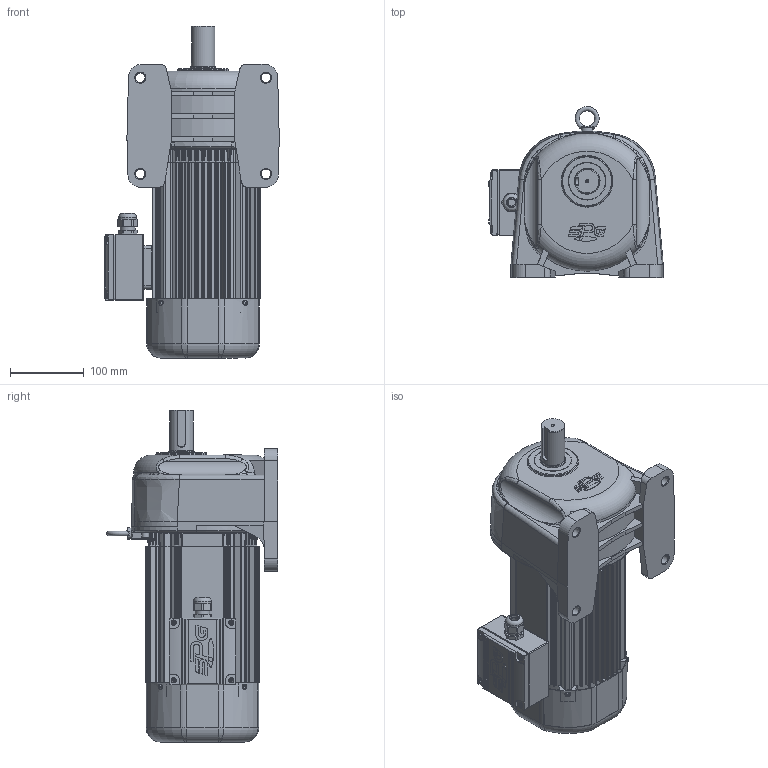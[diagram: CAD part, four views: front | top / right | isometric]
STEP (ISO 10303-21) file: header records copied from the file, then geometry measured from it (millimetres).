
FILE_DESCRIPTION(/* description */ (''),/* implementation_level */ '2;1');
FILE_NAME(/* name */ 'Z:\동력 3D 파일\PAL32-(30~100)-PC(D)075[ ]L.stp',/* time_stamp */ '2021-03-18T11:58:47+09:00',/* author */ ('jaebok'),/* organization */ (''),/* preprocessor_version */ 'ST-DEVELOPER v16.13',/* originating_system */ 'Autodesk Inventor 2018',/* authorisation */ '');
FILE_SCHEMA (('AUTOMOTIVE_DESIGN { 1 0 10303 214 3 1 1 }'));
Products named in the file (1): 부품38
Bounding box: 236 x 231.3 x 449 mm (x, y, z)
Volume: 3139815.4 mm3; surface area: 819427.5 mm2
Topology: 2 solids, 29 shells, 3128 faces, 8072 edges, 4852 vertices
Faces by surface type: plane 1057, cylinder 900, bspline 716, torus 256, cone 123, sphere 76
Full cylindrical faces by diameter (mm): 2 x1, 3.25 x1, 3.6 x4, 4 x22, 4.917 x4, 5 x19, 6 x5, 6.647 x1, 6.8 x4, 7 x13, 8 x5, 9.5 x4, 10 x5, 12.5 x1, 13 x4, 15 x1, 20 x2, 20.6 x1, 21 x2, 22 x1, 23.6 x1, 25 x1, 28 x1, 32 x2, 34.6 x1, 35 x5, 36 x1, 42 x2, 50 x2, 52 x1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
Entity records: 120233 total; most frequent: CARTESIAN_POINT 44990, ORIENTED_EDGE 15148, DIRECTION 15041, EDGE_CURVE 7563, AXIS2_PLACEMENT_3D 6127, VERTEX_POINT 4760, EDGE_LOOP 3521, CIRCLE 3146
